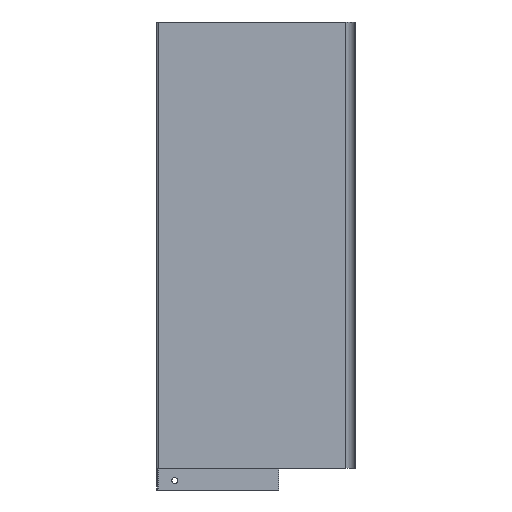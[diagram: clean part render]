
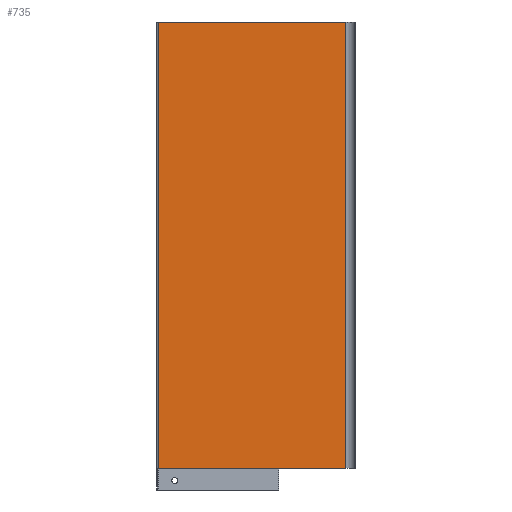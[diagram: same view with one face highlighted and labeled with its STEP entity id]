
A CAD part, left-side view. The second image highlights one B-rep face of the part: STEP entity #735.
In plain terms, the highlighted planar face has unit normal (-1, 0, 0).
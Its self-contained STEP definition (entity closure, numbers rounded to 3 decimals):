
#59 = DIRECTION ( 'NONE',  ( 0., 0., 1. ) ) ;
#87 = VECTOR ( 'NONE', #393, 1000. ) ;
#156 = ORIENTED_EDGE ( 'NONE', *, *, #604, .T. ) ;
#195 = CARTESIAN_POINT ( 'NONE',  ( -8., -144.438, 0. ) ) ;
#224 = DIRECTION ( 'NONE',  ( 0., 1., 0. ) ) ;
#232 = AXIS2_PLACEMENT_3D ( 'NONE', #479, #758, #340 ) ;
#273 = LINE ( 'NONE', #667, #751 ) ;
#312 = VERTEX_POINT ( 'NONE', #195 ) ;
#330 = DIRECTION ( 'NONE',  ( 0., 0., 1. ) ) ;
#340 = DIRECTION ( 'NONE',  ( 0., 1., 0. ) ) ;
#347 = CARTESIAN_POINT ( 'NONE',  ( -8., -144.438, -379. ) ) ;
#393 = DIRECTION ( 'NONE',  ( 0., -1., 0. ) ) ;
#395 = CARTESIAN_POINT ( 'NONE',  ( -8., -144.438, -379. ) ) ;
#444 = VERTEX_POINT ( 'NONE', #347 ) ;
#446 = LINE ( 'NONE', #535, #533 ) ;
#447 = CARTESIAN_POINT ( 'NONE',  ( -8., 14.6, -379. ) ) ;
#479 = CARTESIAN_POINT ( 'NONE',  ( -8., -144.438, -549.403 ) ) ;
#533 = VECTOR ( 'NONE', #330, 1000. ) ;
#535 = CARTESIAN_POINT ( 'NONE',  ( -8., -144.438, -549.403 ) ) ;
#554 = VERTEX_POINT ( 'NONE', #447 ) ;
#563 = CARTESIAN_POINT ( 'NONE',  ( -8., -144.438, 0. ) ) ;
#604 = EDGE_CURVE ( 'NONE', #444, #312, #446, .T. ) ;
#620 = EDGE_CURVE ( 'NONE', #554, #444, #723, .T. ) ;
#635 = EDGE_CURVE ( 'NONE', #554, #804, #273, .T. ) ;
#667 = CARTESIAN_POINT ( 'NONE',  ( -8., 14.6, -549.403 ) ) ;
#694 = PLANE ( 'NONE',  #232 ) ;
#723 = LINE ( 'NONE', #395, #87 ) ;
#729 = ORIENTED_EDGE ( 'NONE', *, *, #635, .F. ) ;
#735 = ADVANCED_FACE ( 'NONE', ( #774 ), #694, .F. ) ;
#751 = VECTOR ( 'NONE', #59, 1000. ) ;
#758 = DIRECTION ( 'NONE',  ( 1., 0., 0. ) ) ;
#766 = CARTESIAN_POINT ( 'NONE',  ( -8., 14.6, 0. ) ) ;
#774 = FACE_OUTER_BOUND ( 'NONE', #835, .T. ) ;
#784 = ORIENTED_EDGE ( 'NONE', *, *, #620, .T. ) ;
#804 = VERTEX_POINT ( 'NONE', #766 ) ;
#823 = VECTOR ( 'NONE', #224, 1000. ) ;
#830 = EDGE_CURVE ( 'NONE', #312, #804, #861, .T. ) ;
#835 = EDGE_LOOP ( 'NONE', ( #784, #156, #844, #729 ) ) ;
#844 = ORIENTED_EDGE ( 'NONE', *, *, #830, .T. ) ;
#861 = LINE ( 'NONE', #563, #823 ) ;
